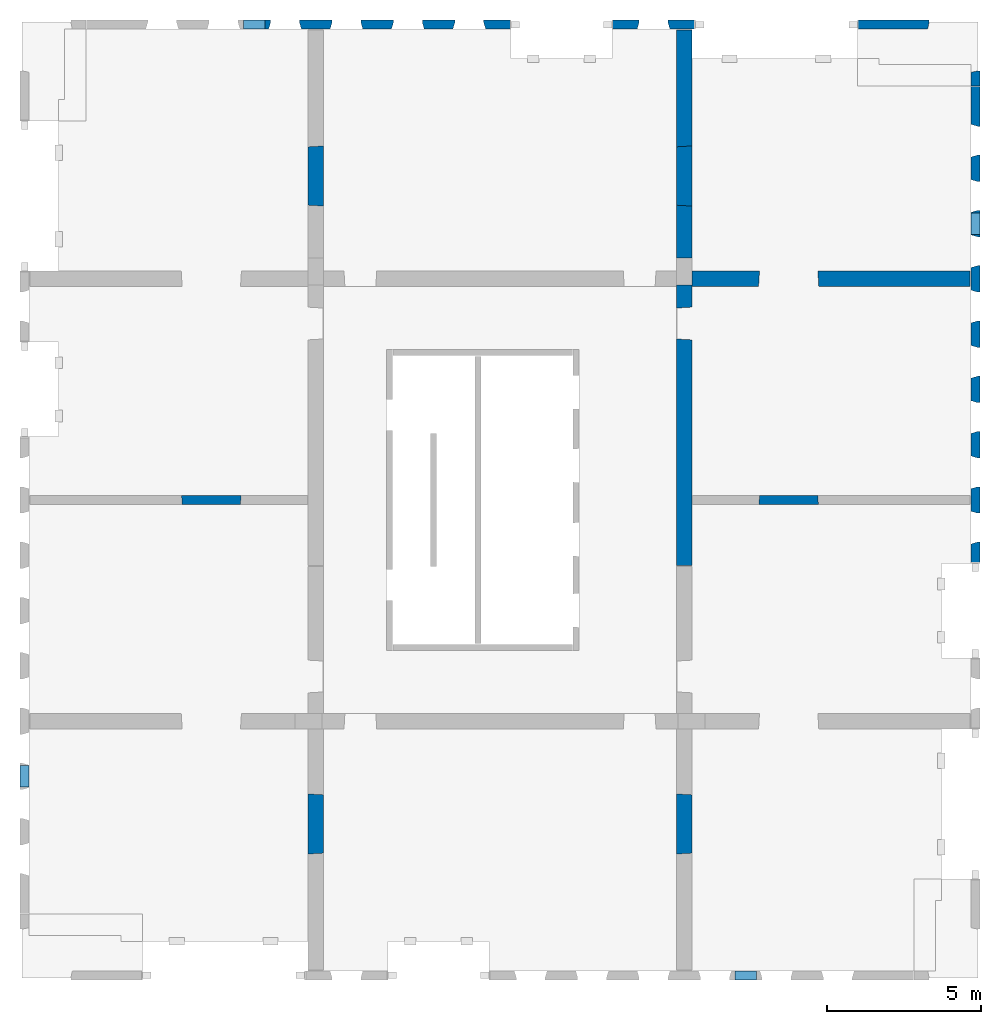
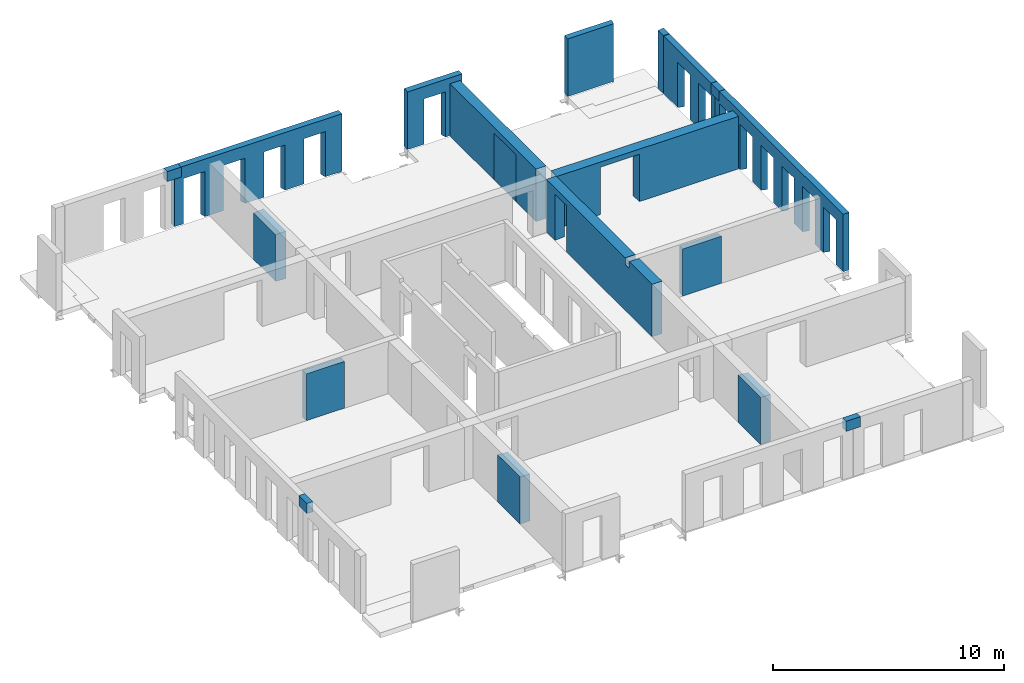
# One storey, part 4 of 4: 19 walls, 22 openings.
"""IFC2X3 building model written with IfcOpenShell, lengths in millimetres."""

from ifc_helpers import new_model, entity, si_unit, converted_unit, derived_unit, direction, frame, frame_2d, origin, place, context, subcontext, project, spatial, rectangle, extrude, faceted_brep, material, layer, layer_set, layer_usage, type_object, element, save


model = new_model("IFC2X3")

# Units and contexts
model_context = context("Model", 3, precision=0.01, world=origin(), true_north=direction((6.12303176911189e-17, 1.0)))
body_context = subcontext(model_context, "Body", "Model", "MODEL_VIEW")
ifc_project = project(units=[si_unit("LENGTHUNIT", "METRE", prefix="MILLI"), si_unit("AREAUNIT", "SQUARE_METRE"), si_unit("VOLUMEUNIT", "CUBIC_METRE"), converted_unit("PLANEANGLEUNIT", "DEGREE", entity("IfcRatioMeasure", 0.0174532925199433), si_unit("PLANEANGLEUNIT", "RADIAN"), dimensions=[0, 0, 0, 0, 0, 0, 0]), si_unit("MASSUNIT", "GRAM", prefix="KILO"), derived_unit("MASSDENSITYUNIT", [(si_unit("MASSUNIT", "GRAM", prefix="KILO"), 1), (si_unit("LENGTHUNIT", "METRE"), -3)]), si_unit("TIMEUNIT", "SECOND"), si_unit("FREQUENCYUNIT", "HERTZ"), si_unit("THERMODYNAMICTEMPERATUREUNIT", "DEGREE_CELSIUS"), derived_unit("THERMALTRANSMITTANCEUNIT", [(si_unit("MASSUNIT", "GRAM", prefix="KILO"), 1), (si_unit("THERMODYNAMICTEMPERATUREUNIT", "KELVIN"), -1), (si_unit("TIMEUNIT", "SECOND"), -3)]), derived_unit("VOLUMETRICFLOWRATEUNIT", [(si_unit("LENGTHUNIT", "METRE"), 3), (si_unit("TIMEUNIT", "SECOND"), -1)]), si_unit("ELECTRICCURRENTUNIT", "AMPERE"), si_unit("ELECTRICVOLTAGEUNIT", "VOLT"), si_unit("POWERUNIT", "WATT"), si_unit("FORCEUNIT", "NEWTON", prefix="KILO"), si_unit("ILLUMINANCEUNIT", "LUX"), si_unit("LUMINOUSFLUXUNIT", "LUMEN"), si_unit("LUMINOUSINTENSITYUNIT", "CANDELA"), derived_unit("USERDEFINED", [(si_unit("MASSUNIT", "GRAM", prefix="KILO"), -1), (si_unit("LENGTHUNIT", "METRE"), -2), (si_unit("TIMEUNIT", "SECOND"), 3), (si_unit("LUMINOUSFLUXUNIT", "LUMEN"), 1)]), derived_unit("LINEARVELOCITYUNIT", [(si_unit("LENGTHUNIT", "METRE"), 1), (si_unit("TIMEUNIT", "SECOND"), -1)]), si_unit("PRESSUREUNIT", "PASCAL"), derived_unit("USERDEFINED", [(si_unit("LENGTHUNIT", "METRE"), -2), (si_unit("MASSUNIT", "GRAM", prefix="KILO"), 1), (si_unit("TIMEUNIT", "SECOND"), -2)])], contexts=[model_context])

# Site, building, storey
site_placement = place(None, origin())
site = spatial("IfcSite", under=ifc_project, at=site_placement, Name="Default", CompositionType="ELEMENT")
building_placement = place(site_placement, origin())
building = spatial("IfcBuilding", under=site, at=building_placement, Name="niet gebruiken", CompositionType="ELEMENT")
storey_placement = place(building_placement, frame((0.0, 0.0, 36360.0)))
storey = spatial("IfcBuildingStorey", under=building, at=storey_placement, Name="11 elfde verdieping", CompositionType="ELEMENT", Elevation=36360.0)

# Walls
ifc_material_1 = material(Name="NLRS_f2_beton ihwg")
ifc_layer_1 = layer(ifc_material_1, 300.0)
ifc_layer_set_1 = layer_set([ifc_layer_1], Name="Basic Wall:NLRS_21.21_WA_beton ihwg d=300_gen")
ifc_layer_usage_1 = layer_usage(ifc_layer_set_1, "AXIS2", "NEGATIVE", 150.0)
wall_type_1 = type_object("IfcWallType", Name="Basic Wall:NLRS_21.21_WA_beton ihwg d=300_gen", PredefinedType="STANDARD", material=ifc_layer_set_1)
wall_1_placement = place(storey_placement, frame((133395.0, 32980.0, 2455.0)))
element("IfcWallStandardCase", 1, at=wall_1_placement, inside=storey, type_object=wall_type_1, material=ifc_layer_usage_1, Name="Basic Wall:NLRS_21.21_WA_beton ihwg d=300_gen", ObjectType="Basic Wall:NLRS_21.21_WA_beton ihwg d=300_gen", context=body_context, shape_type="SweptSolid", body=[
    extrude(rectangle(XDim=710.000000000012, YDim=300.000000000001, at=frame_2d((355.000000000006, 0.0), x_axis=(-1.0, 0.0))), origin(), (0.0, 0.0, 1.0), 535.0),
])
ifc_layer_usage_2 = layer_usage(ifc_layer_set_1, "AXIS2", "NEGATIVE", 150.0)
wall_2_placement = place(storey_placement, frame((150105.0, 2020.0, 2455.0), z_axis=(0.0, 0.0, 1.0), x_axis=(-1.0, 0.0, 0.0)))
element("IfcWallStandardCase", 2, at=wall_2_placement, inside=storey, type_object=wall_type_1, material=ifc_layer_usage_2, Name="Basic Wall:NLRS_21.21_WA_beton ihwg d=300_gen", ObjectType="Basic Wall:NLRS_21.21_WA_beton ihwg d=300_gen", context=body_context, shape_type="SweptSolid", body=[
    extrude(rectangle(XDim=710.000000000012, YDim=300.0, at=frame_2d((355.000000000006, -1.4210854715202e-14), x_axis=(-1.0, 0.0))), origin(), (0.0, 0.0, 1.0), 535.0),
])
ifc_layer_usage_3 = layer_usage(ifc_layer_set_1, "AXIS2", "NEGATIVE", 150.0)
wall_3_placement = place(storey_placement, frame((157230.0, 26845.0, 2455.0), z_axis=(0.0, 0.0, 1.0), x_axis=(0.0, -1.0, 0.0)))
element("IfcWallStandardCase", 3, at=wall_3_placement, inside=storey, type_object=wall_type_1, material=ifc_layer_usage_3, Name="Basic Wall:NLRS_21.21_WA_beton ihwg d=300_gen", ObjectType="Basic Wall:NLRS_21.21_WA_beton ihwg d=300_gen", context=body_context, shape_type="SweptSolid", body=[
    extrude(rectangle(XDim=700.000000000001, YDim=300.000000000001, at=frame_2d((350.000000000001, 9.80548975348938e-13), x_axis=(-1.0, 0.0))), origin(), (0.0, 0.0, 1.0), 535.0),
])
ifc_layer_usage_4 = layer_usage(ifc_layer_set_1, "AXIS2", "NEGATIVE", 150.0)
wall_4_placement = place(storey_placement, frame((126270.0, 8155.0, 2455.0), z_axis=(0.0, 0.0, 1.0), x_axis=(0.0, 1.0, 0.0)))
element("IfcWallStandardCase", 4, at=wall_4_placement, inside=storey, type_object=wall_type_1, material=ifc_layer_usage_4, Name="Basic Wall:NLRS_21.21_WA_beton ihwg d=300_gen", ObjectType="Basic Wall:NLRS_21.21_WA_beton ihwg d=300_gen", context=body_context, shape_type="SweptSolid", body=[
    extrude(rectangle(XDim=700.0, YDim=300.000000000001, at=frame_2d((350.0, 0.0), x_axis=(-1.0, 0.0))), origin(), (0.0, 0.0, 1.0), 535.0),
])

# Wall, opening
ifc_material_2 = material(Name="NLRS_f2_beton prefab")
ifc_layer_2 = layer(ifc_material_2, 500.0)
ifc_layer_set_2 = layer_set([ifc_layer_2], Name="Basic Wall:NLRS_22.21_WA_beton prefab d=500_gen")
ifc_layer_usage_5 = layer_usage(ifc_layer_set_2, "AXIS2", "NEGATIVE", 250.0)
wall_type_2 = type_object("IfcWallType", Name="Basic Wall:NLRS_22.21_WA_beton prefab d=500_gen", PredefinedType="STANDARD", material=ifc_layer_set_2)
wall_5_placement = place(storey_placement, frame((157060.0, 24700.0, -70.0), z_axis=(0.0, 0.0, 1.0), x_axis=(-1.0, 0.0, 0.0)))
wall_5 = element("IfcWallStandardCase", 5, at=wall_5_placement, inside=storey, type_object=wall_type_2, material=ifc_layer_usage_5, Name="Basic Wall:NLRS_22.21_WA_beton prefab d=500_gen", ObjectType="Basic Wall:NLRS_22.21_WA_beton prefab d=500_gen", context=body_context, shape_type="SweptSolid", body=[
    extrude(rectangle(XDim=9060.00000000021, YDim=499.999999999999, at=frame_2d((4530.00000000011, -1.37845290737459e-12), x_axis=(-1.0, 0.0))), origin(), (0.0, 0.0, 1.0), 2769.99999999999),
])
opening_1_placement = place(wall_5_placement, frame((6890.0, 250.0, 0.0)))
element("IfcOpeningElement", 6, at=opening_1_placement, cuts=wall_5, Name="Basic Wall:NLRS_22.21_WA_beton prefab d=500_gen", ObjectType="Opening", context=body_context, shape_type="Brep", body=[
    faceted_brep([(-30.0, -500.0, 2470.0), (-1930.0, -500.0, 2470.0), (-1930.0, -500.0, 0.0), (-30.0, -500.0, 0.0), (0.0, 0.0, 2500.0), (0.0, 0.0, 0.0), (-1960.0, 0.0, 0.0), (-1960.0, 0.0, 2500.0)], [[[0, 1, 2, 3]], [[4, 5, 6, 7]], [[4, 7, 1, 0]], [[7, 6, 2, 1]], [[6, 5, 3, 2]], [[5, 4, 0, 3]]]),
])

ifc_layer_usage_6 = layer_usage(ifc_layer_set_2, "AXIS2", "NEGATIVE", 250.0)
wall_6_placement = place(storey_placement, frame((147750.0, 25380.0, -70.0), z_axis=(0.0, 0.0, 1.0), x_axis=(0.0, 1.0, 0.0)))
wall_6 = element("IfcWallStandardCase", 7, at=wall_6_placement, inside=storey, type_object=wall_type_2, material=ifc_layer_usage_6, Name="Basic Wall:NLRS_22.21_WA_beton prefab d=500_gen", ObjectType="Basic Wall:NLRS_22.21_WA_beton prefab d=500_gen", context=body_context, shape_type="SweptSolid", body=[
    extrude(rectangle(XDim=7429.99999999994, YDim=499.99999999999, at=frame_2d((3714.99999999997, 1.70530256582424e-12), x_axis=(-1.0, 0.0))), origin(), (0.0, 0.0, 1.0), 2769.99999999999),
])
opening_2_placement = place(wall_6_placement, frame((1690.0, 250.0, 0.0)))
element("IfcOpeningElement", 8, at=opening_2_placement, cuts=wall_6, Name="Basic Wall:NLRS_22.21_WA_beton prefab d=500_gen", ObjectType="Opening", context=body_context, shape_type="Brep", body=[
    faceted_brep([(1930.0, 0.0, 2470.0), (1930.0, 0.0, 0.0), (30.0, 0.0, 0.0), (30.0, 0.0, 2470.0), (1960.0, -500.0, 2500.0), (0.0, -500.0, 2500.0), (0.0, -500.0, 0.0), (1960.0, -500.0, 0.0)], [[[0, 1, 2, 3]], [[4, 5, 6, 7]], [[4, 0, 3, 5]], [[5, 3, 2, 6]], [[6, 2, 1, 7]], [[7, 1, 0, 4]]]),
])

# Wall, openings
ifc_layer_usage_7 = layer_usage(ifc_layer_set_2, "AXIS2", "NEGATIVE", 250.0)
wall_7_placement = place(storey_placement, frame((147750.0, 24500.0, -70.0), z_axis=(0.0, 0.0, 1.0), x_axis=(0.0, -1.0, 0.0)))
wall_7 = element("IfcWallStandardCase", 9, at=wall_7_placement, inside=storey, type_object=wall_type_2, material=ifc_layer_usage_7, Name="Basic Wall:NLRS_22.21_WA_beton prefab d=500_gen", ObjectType="Basic Wall:NLRS_22.21_WA_beton prefab d=500_gen", context=body_context, shape_type="SweptSolid", body=[
    extrude(rectangle(XDim=9140.00000000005, YDim=499.99999999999, at=frame_2d((4570.00000000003, -1.4210854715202e-14), x_axis=(-1.0, 0.0))), origin(), (0.0, 0.0, 1.0), 2770.00000000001),
])
opening_3_placement = place(wall_7_placement, frame((1786.0, -250.0, 0.0)))
element("IfcOpeningElement", 10, at=opening_3_placement, cuts=wall_7, Name="Basic Wall:NLRS_22.21_WA_beton prefab d=500_gen", ObjectType="Opening", context=body_context, shape_type="Brep", body=[
    faceted_brep([(-1066.0, 500.0, 2478.0), (-1066.0, 500.0, 0.0), (-1036.0, 0.0, 0.0), (-1036.0, 0.0, 2448.0), (0.0, 500.0, 0.0), (-30.0, 0.0, 0.0), (-30.0, 0.0, 2448.0), (0.0, 500.0, 2478.0)], [[[0, 1, 2, 3]], [[1, 4, 5, 2]], [[6, 3, 2, 5]], [[7, 4, 1, 0]], [[7, 0, 3, 6]], [[4, 7, 6, 5]]]),
])
opening_4_placement = place(wall_7_placement, origin())
element("IfcOpeningElement", 11, at=opening_4_placement, cuts=wall_7, Name="Basic Wall:NLRS_22.21_WA_beton prefab d=500_gen", ObjectType="Opening", context=body_context, shape_type="SweptSolid", body=[
    extrude(rectangle(XDim=350.000000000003, YDim=339.999999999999, at=frame_2d((-1.08002495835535e-12, -2.1600499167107e-12), x_axis=(0.0, 1.0))), frame((7000.0, 250.0, 2595.0), z_axis=(0.0, -1.0, 0.0), x_axis=(-1.0, 0.0, 0.0)), (0.0, 0.0, 1.0), 500.0),
])

# Wall, opening
ifc_layer_3 = layer(ifc_material_2, 300.0)
ifc_layer_set_3 = layer_set([ifc_layer_3], Name="Basic Wall:NLRS_21.21_WA_beton prefab d=300/320_gen")
ifc_layer_usage_8 = layer_usage(ifc_layer_set_3, "AXIS2", "NEGATIVE", 150.0)
wall_type_3 = type_object("IfcWallType", Name="Basic Wall:NLRS_21.21_WA_beton prefab d=300/320_gen", PredefinedType="STANDARD", material=ifc_layer_set_3)
wall_8_placement = place(storey_placement, frame((145390.0, 32980.0, -50.0)))
wall_8 = element("IfcWallStandardCase", 12, at=wall_8_placement, inside=storey, type_object=wall_type_3, material=ifc_layer_usage_8, Name="Basic Wall:NLRS_21.21_WA_beton prefab d=300/320_gen", ObjectType="Basic Wall:NLRS_21.21_WA_beton prefab d=300/320_gen", context=body_context, shape_type="SweptSolid", body=[
    extrude(rectangle(XDim=2720.00000000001, YDim=300.000000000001, at=frame_2d((1360.0, -4.54747350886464e-13), x_axis=(-1.0, 0.0))), origin(), (0.0, 0.0, 1.0), 3040.0),
])
opening_5_placement = place(wall_8_placement, frame((825.0, -150.0, -20.0)))
element("IfcOpeningElement", 13, at=opening_5_placement, cuts=wall_8, Name="Basic Wall:NLRS_21.21_WA_beton prefab d=300/320_gen", ObjectType="Opening", context=body_context, shape_type="Brep", body=[
    faceted_brep([(0.0, 0.0, 2405.0), (0.0, 0.0, 0.0), (1070.0, 0.0, 0.0), (1070.0, 0.0, 2405.0), (1005.0, 219.0, 2370.0), (65.0, 219.0, 2370.0), (1005.0, 219.0, 0.0), (65.0, 219.0, 0.0), (65.0, 300.0, 0.0), (1005.0, 300.0, 0.0), (65.0, 300.0, 2370.0), (1005.0, 300.0, 2370.0)], [[[0, 1, 2, 3]], [[3, 4, 5, 0]], [[2, 6, 4, 3]], [[1, 7, 8, 9, 6, 2]], [[0, 5, 7, 1]], [[10, 11, 9, 8]], [[10, 5, 4, 11]], [[11, 4, 6, 9]], [[8, 7, 5, 10]]]),
])

ifc_layer_usage_9 = layer_usage(ifc_layer_set_3, "AXIS2", "NEGATIVE", 150.0)
wall_9_placement = place(storey_placement, frame((153390.0, 32980.0, -50.0)))
wall_9 = element("IfcWallStandardCase", 14, at=wall_9_placement, inside=storey, type_object=wall_type_3, material=ifc_layer_usage_9, Name="Basic Wall:NLRS_21.21_WA_beton prefab d=300/320_gen", ObjectType="Basic Wall:NLRS_21.21_WA_beton prefab d=300/320_gen", context=body_context, shape_type="SweptSolid", body=[
    extrude(rectangle(XDim=2330.00000000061, YDim=300.000000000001, at=frame_2d((1165.00000000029, -1.29318777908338e-12), x_axis=(-1.0, 0.0))), origin(), (0.0, 0.0, 1.0), 3040.0),
])
opening_6_placement = place(wall_9_placement, frame((2265.0, -250.0, 0.0)))
element("IfcOpeningElement", 15, at=opening_6_placement, cuts=wall_9, Name="Basic Wall:NLRS_21.21_WA_beton prefab d=300/320_gen", ObjectType="Opening", context=body_context, shape_type="Brep", body=[
    faceted_brep([(65.0, 0.0, 3040.0), (65.0, 319.0, 3040.0), (0.0, 0.0, 3040.0), (65.0, 0.0, 0.0), (0.0, 0.0, 0.0), (65.0, 319.0, 0.0)], [[[0, 1, 2]], [[3, 4, 5]], [[2, 4, 3, 0]], [[0, 3, 5, 1]], [[1, 5, 4, 2]]]),
])

ifc_layer_usage_10 = layer_usage(ifc_layer_set_3, "AXIS2", "NEGATIVE", 150.0)
wall_10_placement = place(storey_placement, frame((157230.0, 31470.0, -50.0), z_axis=(0.0, 0.0, 1.0), x_axis=(0.0, -1.0, 0.0)))
wall_10 = element("IfcWallStandardCase", 16, at=wall_10_placement, inside=storey, type_object=wall_type_3, material=ifc_layer_usage_10, Name="Basic Wall:NLRS_21.21_WA_beton prefab d=300/320_gen", ObjectType="Basic Wall:NLRS_21.21_WA_beton prefab d=300/320_gen", context=body_context, shape_type="SweptSolid", body=[
    extrude(rectangle(XDim=489.999999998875, YDim=300.000000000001, at=frame_2d((244.999999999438, -7.8159700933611e-13), x_axis=(-1.0, 0.0))), origin(), (0.0, 0.0, 1.0), 3040.0),
])
opening_7_placement = place(wall_10_placement, frame((65.0, -250.0, 0.0)))
element("IfcOpeningElement", 17, at=opening_7_placement, cuts=wall_10, Name="Basic Wall:NLRS_21.21_WA_beton prefab d=300/320_gen", ObjectType="Opening", context=body_context, shape_type="Brep", body=[
    faceted_brep([(-65.0, 0.0, 3040.0), (0.0, 0.0, 3040.0), (-65.0, 319.0, 3040.0), (-65.0, 0.0, 0.0), (-65.0, 319.0, 0.0), (0.0, 0.0, 0.0)], [[[0, 1, 2]], [[3, 4, 5]], [[1, 0, 3, 5]], [[0, 2, 4, 3]], [[2, 1, 5, 4]]]),
])

# Wall, openings
ifc_layer_usage_11 = layer_usage(ifc_layer_set_3, "AXIS2", "NEGATIVE", 150.0)
wall_11_placement = place(storey_placement, frame((133760.0, 32980.0, -50.0)))
wall_11 = element("IfcWallStandardCase", 18, at=wall_11_placement, inside=storey, type_object=wall_type_3, material=ifc_layer_usage_11, Name="Basic Wall:NLRS_21.21_WA_beton prefab d=300/320_gen", ObjectType="Basic Wall:NLRS_21.21_WA_beton prefab d=300/320_gen", context=body_context, shape_type="SweptSolid", body=[
    extrude(rectangle(XDim=8350.00000000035, YDim=300.000000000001, at=frame_2d((4175.00000000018, -1.91846538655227e-12), x_axis=(-1.0, 0.0))), origin(), (0.0, 0.0, 1.0), 3040.0),
])
opening_8_placement = place(wall_11_placement, frame((2455.0, -150.0, -20.0)))
element("IfcOpeningElement", 19, at=opening_8_placement, cuts=wall_11, Name="Basic Wall:NLRS_21.21_WA_beton prefab d=300/320_gen", ObjectType="Opening", context=body_context, shape_type="Brep", body=[
    faceted_brep([(1070.0, 0.0, 2405.0), (0.0, 0.0, 2405.0), (0.0, 0.0, 0.0), (1070.0, 0.0, 0.0), (1005.0, 219.0, 2370.0), (65.0, 219.0, 2370.0), (65.0, 219.0, 0.0), (65.0, 300.0, 0.0), (1005.0, 300.0, 0.0), (1005.0, 219.0, 0.0), (1005.0, 300.0, 2370.0), (65.0, 300.0, 2370.0)], [[[0, 1, 2, 3]], [[1, 0, 4, 5]], [[2, 1, 5, 6]], [[3, 2, 6, 7, 8, 9]], [[0, 3, 9, 4]], [[10, 8, 7, 11]], [[10, 11, 5, 4]], [[11, 7, 6, 5]], [[8, 10, 4, 9]]]),
])
opening_9_placement = place(wall_11_placement, frame((455.0, -150.0, -20.0)))
element("IfcOpeningElement", 20, at=opening_9_placement, cuts=wall_11, Name="Basic Wall:NLRS_21.21_WA_beton prefab d=300/320_gen", ObjectType="Opening", context=body_context, shape_type="Brep", body=[
    faceted_brep([(1070.0, 0.0, 2405.0), (0.0, 0.0, 2405.0), (0.0, 0.0, 0.0), (1070.0, 0.0, 0.0), (1005.0, 219.0, 2370.0), (65.0, 219.0, 2370.0), (65.0, 219.0, 0.0), (65.0, 300.0, 0.0), (1005.0, 300.0, 0.0), (1005.0, 219.0, 0.0), (1005.0, 300.0, 2370.0), (65.0, 300.0, 2370.0)], [[[0, 1, 2, 3]], [[1, 0, 4, 5]], [[2, 1, 5, 6]], [[3, 2, 6, 7, 8, 9]], [[0, 3, 9, 4]], [[10, 8, 7, 11]], [[10, 11, 5, 4]], [[11, 7, 6, 5]], [[8, 10, 4, 9]]]),
])
opening_10_placement = place(wall_11_placement, frame((4455.0, -150.0, -20.0)))
element("IfcOpeningElement", 21, at=opening_10_placement, cuts=wall_11, Name="Basic Wall:NLRS_21.21_WA_beton prefab d=300/320_gen", ObjectType="Opening", context=body_context, shape_type="Brep", body=[
    faceted_brep([(1070.0, 0.0, 2405.0), (0.0, 0.0, 2405.0), (0.0, 0.0, 0.0), (1070.0, 0.0, 0.0), (1005.0, 219.0, 2370.0), (65.0, 219.0, 2370.0), (65.0, 219.0, 0.0), (65.0, 300.0, 0.0), (1005.0, 300.0, 0.0), (1005.0, 219.0, 0.0), (1005.0, 300.0, 2370.0), (65.0, 300.0, 2370.0)], [[[0, 1, 2, 3]], [[1, 0, 4, 5]], [[2, 1, 5, 6]], [[3, 2, 6, 7, 8, 9]], [[0, 3, 9, 4]], [[10, 8, 7, 11]], [[10, 11, 5, 4]], [[11, 7, 6, 5]], [[8, 10, 4, 9]]]),
])
opening_11_placement = place(wall_11_placement, frame((6455.0, -150.0, -20.0)))
element("IfcOpeningElement", 22, at=opening_11_placement, cuts=wall_11, Name="Basic Wall:NLRS_21.21_WA_beton prefab d=300/320_gen", ObjectType="Opening", context=body_context, shape_type="Brep", body=[
    faceted_brep([(1070.0, 0.0, 2405.0), (0.0, 0.0, 2405.0), (0.0, 0.0, 0.0), (1070.0, 0.0, 0.0), (1005.0, 219.0, 2370.0), (65.0, 219.0, 2370.0), (65.0, 219.0, 0.0), (65.0, 300.0, 0.0), (1005.0, 300.0, 0.0), (1005.0, 219.0, 0.0), (1005.0, 300.0, 2370.0), (65.0, 300.0, 2370.0)], [[[0, 1, 2, 3]], [[1, 0, 4, 5]], [[2, 1, 5, 6]], [[3, 2, 6, 7, 8, 9]], [[0, 3, 9, 4]], [[10, 8, 7, 11]], [[10, 11, 5, 4]], [[11, 7, 6, 5]], [[8, 10, 4, 9]]]),
])
opening_12_placement = place(wall_11_placement, origin())
element("IfcOpeningElement", 23, at=opening_12_placement, cuts=wall_11, Name="Basic Wall:NLRS_21.21_WA_beton prefab d=300/320_gen", ObjectType="Opening", context=body_context, shape_type="SweptSolid", body=[
    extrude(rectangle(XDim=534.999999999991, YDim=344.999999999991, at=frame_2d((8.65441052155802e-12, -4.32009983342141e-12), x_axis=(0.0, 1.0))), frame((172.500000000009, 150.0, 2772.5), z_axis=(0.0, -1.0, 0.0), x_axis=(-1.0, 0.0, 0.0)), (0.0, 0.0, 1.0), 300.0),
])

ifc_layer_usage_12 = layer_usage(ifc_layer_set_3, "AXIS2", "NEGATIVE", 150.0)
wall_12_placement = place(storey_placement, frame((157230.0, 30960.0, -50.0), z_axis=(0.0, 0.0, 1.0), x_axis=(0.0, -1.0, 0.0)))
wall_12 = element("IfcWallStandardCase", 24, at=wall_12_placement, inside=storey, type_object=wall_type_3, material=ifc_layer_usage_12, Name="Basic Wall:NLRS_21.21_WA_beton prefab d=300/320_gen", ObjectType="Basic Wall:NLRS_21.21_WA_beton prefab d=300/320_gen", context=body_context, shape_type="SweptSolid", body=[
    extrude(rectangle(XDim=4460.00000000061, YDim=300.000000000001, at=frame_2d((2230.0000000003, -1.10986775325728e-11), x_axis=(-1.0, 0.0))), origin(), (0.0, 0.0, 1.0), 3039.99999999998),
])
opening_13_placement = place(wall_12_placement, frame((2295.0, -150.0, -20.0)))
element("IfcOpeningElement", 25, at=opening_13_placement, cuts=wall_12, Name="Basic Wall:NLRS_21.21_WA_beton prefab d=300/320_gen", ObjectType="Opening", context=body_context, shape_type="Brep", body=[
    faceted_brep([(-1070.0, 0.0, 2405.0), (-1070.0, 0.0, 0.0), (0.0, 0.0, 0.0), (0.0, 0.0, 2405.0), (-65.0, 219.0, 2370.0), (-1005.0, 219.0, 2370.0), (-65.0, 219.0, 0.0), (-1005.0, 219.0, 0.0), (-1005.0, 300.0, 0.0), (-65.0, 300.0, 0.0), (-1005.0, 300.0, 2370.0), (-65.0, 300.0, 2370.0)], [[[0, 1, 2, 3]], [[3, 4, 5, 0]], [[2, 6, 4, 3]], [[1, 7, 8, 9, 6, 2]], [[0, 5, 7, 1]], [[10, 11, 9, 8]], [[10, 5, 4, 11]], [[11, 4, 6, 9]], [[8, 7, 5, 10]]]),
])
opening_14_placement = place(wall_12_placement, frame((4095.0, -150.0, -20.0)))
element("IfcOpeningElement", 26, at=opening_14_placement, cuts=wall_12, Name="Basic Wall:NLRS_21.21_WA_beton prefab d=300/320_gen", ObjectType="Opening", context=body_context, shape_type="Brep", body=[
    faceted_brep([(-1070.0, 0.0, 2405.0), (-1070.0, 0.0, 0.0), (0.0, 0.0, 0.0), (0.0, 0.0, 2405.0), (-65.0, 219.0, 2370.0), (-1005.0, 219.0, 2370.0), (-65.0, 219.0, 0.0), (-1005.0, 219.0, 0.0), (-1005.0, 300.0, 0.0), (-65.0, 300.0, 0.0), (-1005.0, 300.0, 2370.0), (-65.0, 300.0, 2370.0)], [[[0, 1, 2, 3]], [[3, 4, 5, 0]], [[2, 6, 4, 3]], [[1, 7, 8, 9, 6, 2]], [[0, 5, 7, 1]], [[10, 11, 9, 8]], [[10, 5, 4, 11]], [[11, 4, 6, 9]], [[8, 7, 5, 10]]]),
])
opening_15_placement = place(wall_12_placement, origin())
element("IfcOpeningElement", 27, at=opening_15_placement, cuts=wall_12, Name="Basic Wall:NLRS_21.21_WA_beton prefab d=300/320_gen", ObjectType="Opening", context=body_context, shape_type="SweptSolid", body=[
    extrude(rectangle(XDim=534.999999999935, YDim=345.000000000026, at=frame_2d((-2.18847162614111e-12, 0.0), x_axis=(1.0, 0.0))), frame((4287.50000000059, 150.0, 2772.50000000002), z_axis=(0.0, -1.0, 0.0), x_axis=(0.0, 0.0, 1.0)), (0.0, 0.0, 1.0), 300.0),
])

ifc_layer_usage_13 = layer_usage(ifc_layer_set_3, "AXIS2", "NEGATIVE", 150.0)
wall_13_placement = place(storey_placement, frame((157230.0, 26490.0, -50.0), z_axis=(0.0, 0.0, 1.0), x_axis=(0.0, -1.0, 0.0)))
wall_13 = element("IfcWallStandardCase", 28, at=wall_13_placement, inside=storey, type_object=wall_type_3, material=ifc_layer_usage_13, Name="Basic Wall:NLRS_21.21_WA_beton prefab d=300/320_gen", ObjectType="Basic Wall:NLRS_21.21_WA_beton prefab d=300/320_gen", context=body_context, shape_type="SweptSolid", body=[
    extrude(rectangle(XDim=11050.0000000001, YDim=300.000000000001, at=frame_2d((5525.00000000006, -1.91846538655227e-12), x_axis=(-1.0, 0.0))), origin(), (0.0, 0.0, 1.0), 3040.0),
])
opening_16_placement = place(wall_13_placement, frame((10425.0, -150.0, -20.0)))
element("IfcOpeningElement", 29, at=opening_16_placement, cuts=wall_13, Name="Basic Wall:NLRS_21.21_WA_beton prefab d=300/320_gen", ObjectType="Opening", context=body_context, shape_type="Brep", body=[
    faceted_brep([(-1070.0, 0.0, 2405.0), (-1070.0, 0.0, 0.0), (0.0, 0.0, 0.0), (0.0, 0.0, 2405.0), (-65.0, 219.0, 2370.0), (-1005.0, 219.0, 2370.0), (-65.0, 219.0, 0.0), (-1005.0, 219.0, 0.0), (-1005.0, 300.0, 0.0), (-65.0, 300.0, 0.0), (-1005.0, 300.0, 2370.0), (-65.0, 300.0, 2370.0)], [[[0, 1, 2, 3]], [[3, 4, 5, 0]], [[2, 6, 4, 3]], [[1, 7, 8, 9, 6, 2]], [[0, 5, 7, 1]], [[10, 11, 9, 8]], [[10, 5, 4, 11]], [[11, 4, 6, 9]], [[8, 7, 5, 10]]]),
])
opening_17_placement = place(wall_13_placement, frame((6825.0, -150.0, -20.0)))
element("IfcOpeningElement", 30, at=opening_17_placement, cuts=wall_13, Name="Basic Wall:NLRS_21.21_WA_beton prefab d=300/320_gen", ObjectType="Opening", context=body_context, shape_type="Brep", body=[
    faceted_brep([(-1070.0, 0.0, 2405.0), (-1070.0, 0.0, 0.0), (0.0, 0.0, 0.0), (0.0, 0.0, 2405.0), (-65.0, 219.0, 2370.0), (-1005.0, 219.0, 2370.0), (-65.0, 219.0, 0.0), (-1005.0, 219.0, 0.0), (-1005.0, 300.0, 0.0), (-65.0, 300.0, 0.0), (-1005.0, 300.0, 2370.0), (-65.0, 300.0, 2370.0)], [[[0, 1, 2, 3]], [[3, 4, 5, 0]], [[2, 6, 4, 3]], [[1, 7, 8, 9, 6, 2]], [[0, 5, 7, 1]], [[10, 11, 9, 8]], [[10, 5, 4, 11]], [[11, 4, 6, 9]], [[8, 7, 5, 10]]]),
])
opening_18_placement = place(wall_13_placement, frame((5025.0, -150.0, -20.0)))
element("IfcOpeningElement", 31, at=opening_18_placement, cuts=wall_13, Name="Basic Wall:NLRS_21.21_WA_beton prefab d=300/320_gen", ObjectType="Opening", context=body_context, shape_type="Brep", body=[
    faceted_brep([(-1070.0, 0.0, 2405.0), (-1070.0, 0.0, 0.0), (0.0, 0.0, 0.0), (0.0, 0.0, 2405.0), (-65.0, 219.0, 2370.0), (-1005.0, 219.0, 2370.0), (-65.0, 219.0, 0.0), (-1005.0, 219.0, 0.0), (-1005.0, 300.0, 0.0), (-65.0, 300.0, 0.0), (-1005.0, 300.0, 2370.0), (-65.0, 300.0, 2370.0)], [[[0, 1, 2, 3]], [[3, 4, 5, 0]], [[2, 6, 4, 3]], [[1, 7, 8, 9, 6, 2]], [[0, 5, 7, 1]], [[10, 11, 9, 8]], [[10, 5, 4, 11]], [[11, 4, 6, 9]], [[8, 7, 5, 10]]]),
])
opening_19_placement = place(wall_13_placement, frame((8625.0, -150.0, -20.0)))
element("IfcOpeningElement", 32, at=opening_19_placement, cuts=wall_13, Name="Basic Wall:NLRS_21.21_WA_beton prefab d=300/320_gen", ObjectType="Opening", context=body_context, shape_type="Brep", body=[
    faceted_brep([(-1070.0, 0.0, 2405.0), (-1070.0, 0.0, 0.0), (0.0, 0.0, 0.0), (0.0, 0.0, 2405.0), (-65.0, 219.0, 2370.0), (-1005.0, 219.0, 2370.0), (-65.0, 219.0, 0.0), (-1005.0, 219.0, 0.0), (-1005.0, 300.0, 0.0), (-65.0, 300.0, 0.0), (-1005.0, 300.0, 2370.0), (-65.0, 300.0, 2370.0)], [[[0, 1, 2, 3]], [[3, 4, 5, 0]], [[2, 6, 4, 3]], [[1, 7, 8, 9, 6, 2]], [[0, 5, 7, 1]], [[10, 11, 9, 8]], [[10, 5, 4, 11]], [[11, 4, 6, 9]], [[8, 7, 5, 10]]]),
])
opening_20_placement = place(wall_13_placement, frame((3225.0, -150.0, -20.0)))
element("IfcOpeningElement", 33, at=opening_20_placement, cuts=wall_13, Name="Basic Wall:NLRS_21.21_WA_beton prefab d=300/320_gen", ObjectType="Opening", context=body_context, shape_type="Brep", body=[
    faceted_brep([(-1070.0, 0.0, 2405.0), (-1070.0, 0.0, 0.0), (0.0, 0.0, 0.0), (0.0, 0.0, 2405.0), (-65.0, 219.0, 2370.0), (-1005.0, 219.0, 2370.0), (-65.0, 219.0, 0.0), (-1005.0, 219.0, 0.0), (-1005.0, 300.0, 0.0), (-65.0, 300.0, 0.0), (-1005.0, 300.0, 2370.0), (-65.0, 300.0, 2370.0)], [[[0, 1, 2, 3]], [[3, 4, 5, 0]], [[2, 6, 4, 3]], [[1, 7, 8, 9, 6, 2]], [[0, 5, 7, 1]], [[10, 11, 9, 8]], [[10, 5, 4, 11]], [[11, 4, 6, 9]], [[8, 7, 5, 10]]]),
])
opening_21_placement = place(wall_13_placement, frame((1425.0, -150.0, -20.0)))
element("IfcOpeningElement", 34, at=opening_21_placement, cuts=wall_13, Name="Basic Wall:NLRS_21.21_WA_beton prefab d=300/320_gen", ObjectType="Opening", context=body_context, shape_type="Brep", body=[
    faceted_brep([(0.0, 0.0, 2405.0), (-1070.0, 0.0, 2405.0), (-1070.0, 0.0, 0.0), (0.0, 0.0, 0.0), (-65.0, 219.0, 2370.0), (-1005.0, 219.0, 2370.0), (-1005.0, 219.0, 0.0), (-1005.0, 300.0, 0.0), (-65.0, 300.0, 0.0), (-65.0, 219.0, 0.0), (-65.0, 300.0, 2370.0), (-1005.0, 300.0, 2370.0)], [[[0, 1, 2, 3]], [[1, 0, 4, 5]], [[2, 1, 5, 6]], [[3, 2, 6, 7, 8, 9]], [[0, 3, 9, 4]], [[10, 8, 7, 11]], [[10, 11, 5, 4]], [[11, 7, 6, 5]], [[8, 10, 4, 9]]]),
])
opening_22_placement = place(wall_13_placement, origin())
element("IfcOpeningElement", 35, at=opening_22_placement, cuts=wall_13, Name="Basic Wall:NLRS_21.21_WA_beton prefab d=300/320_gen", ObjectType="Opening", context=body_context, shape_type="SweptSolid", body=[
    extrude(rectangle(XDim=534.999999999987, YDim=344.999999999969, at=frame_2d((2.17426077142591e-12, 2.1600499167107e-12), x_axis=(0.0, 1.0))), frame((172.499999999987, 150.0, 2772.50000000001), z_axis=(0.0, -1.0, 0.0), x_axis=(-1.0, 0.0, 0.0)), (0.0, 0.0, 1.0), 300.0),
])

# Walls
ifc_material_3 = material(Name="NLRS_f2_beton prefab dichtstorten")
wall_type_4 = type_object("IfcWallType", Name="Parametric Wall:NLRS_22.21_WA_beton prefab d=500 1900x2470_gen", PredefinedType="NOTDEFINED", material=ifc_material_3)
wall_14_placement = place(storey_placement, frame((135500.0, 5970.0, -70.0), z_axis=(0.0, 0.0, 1.0), x_axis=(0.0, 1.0, 0.0)))
element("IfcWall", 36, at=wall_14_placement, inside=storey, type_object=wall_type_4, material=ifc_material_3, Name="Parametric Wall:NLRS_22.21_WA_beton prefab d=500 1900x2470_gen", ObjectType="Parametric Wall:NLRS_22.21_WA_beton prefab d=500 1900x2470_gen", context=body_context, shape_type="Brep", body=[
    faceted_brep([(1960.0, 0.0, 2500.0), (1960.0, 0.0, 0.0), (0.0, 0.0, 0.0), (0.0, 0.0, 2500.0), (1930.0, -500.0, 2470.0), (30.0, -500.0, 2470.0), (30.0, -500.0, 0.0), (1930.0, -500.0, 0.0)], [[[0, 1, 2, 3]], [[4, 5, 6, 7]], [[4, 7, 1, 0]], [[7, 6, 2, 1]], [[6, 5, 3, 2]], [[5, 4, 0, 3]]]),
])
for number, where, z_axis, x_axis in (
    (37, (147500.0, 27070.0, -70.0), (0.0, 0.0, 1.0), (0.0, 1.0, 0.0)),
    (38, (135500.0, 27070.0, -70.0), (0.0, 0.0, 1.0), (0.0, 1.0, 0.0)),
):
    element("IfcWall", number, at=place(storey_placement, frame(where, z_axis=z_axis, x_axis=x_axis)), inside=storey, type_object=wall_type_4, material=ifc_material_3, Name="Parametric Wall:NLRS_22.21_WA_beton prefab d=500 1900x2470_gen", ObjectType="Parametric Wall:NLRS_22.21_WA_beton prefab d=500 1900x2470_gen", context=body_context, shape_type="Brep", body=[
        faceted_brep([(0.0, -500.0, 2500.0), (0.0, -500.0, 0.0), (1960.0, -500.0, 0.0), (1960.0, -500.0, 2500.0), (30.0, 0.0, 2470.0), (1930.0, 0.0, 2470.0), (1930.0, 0.0, 0.0), (30.0, 0.0, 0.0)], [[[0, 1, 2, 3]], [[4, 5, 6, 7]], [[4, 7, 1, 0]], [[7, 6, 2, 1]], [[6, 5, 3, 2]], [[5, 4, 0, 3]]]),
    ])
wall_15_placement = place(storey_placement, frame((147500.0, 5970.0, -70.0), z_axis=(0.0, 0.0, 1.0), x_axis=(0.0, 1.0, 0.0)))
element("IfcWall", 39, at=wall_15_placement, inside=storey, type_object=wall_type_4, material=ifc_material_3, Name="Parametric Wall:NLRS_22.21_WA_beton prefab d=500 1900x2470_gen", ObjectType="Parametric Wall:NLRS_22.21_WA_beton prefab d=500 1900x2470_gen", context=body_context, shape_type="Brep", body=[
    faceted_brep([(1960.0, 0.0, 2500.0), (1960.0, 0.0, 0.0), (0.0, 0.0, 0.0), (0.0, 0.0, 2500.0), (1930.0, -500.0, 2470.0), (30.0, -500.0, 2470.0), (30.0, -500.0, 0.0), (1930.0, -500.0, 0.0)], [[[0, 1, 2, 3]], [[4, 5, 6, 7]], [[4, 7, 1, 0]], [[7, 6, 2, 1]], [[6, 5, 3, 2]], [[5, 4, 0, 3]]]),
])
wall_16_placement = place(storey_placement, frame((131382.0, 17350.0, -70.0)))
element("IfcWall", 40, at=wall_16_placement, inside=storey, type_object=wall_type_4, material=ifc_material_3, Name="Parametric Wall:NLRS_22.21_WA_beton prefab d=500 1900x2470_gen", ObjectType="Parametric Wall:NLRS_22.21_WA_beton prefab d=500 1900x2470_gen", context=body_context, shape_type="Brep", body=[
    faceted_brep([(1936.0, 300.0, 2488.0), (1936.0, 300.0, 0.0), (0.0, 300.0, 0.0), (0.0, 300.0, 2488.0), (1918.0, 0.0, 2470.0), (18.0, 0.0, 2470.0), (18.0, 0.0, 0.0), (1918.0, 0.0, 0.0)], [[[0, 1, 2, 3]], [[4, 5, 6, 7]], [[4, 7, 1, 0]], [[7, 6, 2, 1]], [[6, 5, 3, 2]], [[5, 4, 0, 3]]]),
])
wall_17_placement = place(storey_placement, frame((150182.0, 17350.0, -70.0)))
element("IfcWall", 41, at=wall_17_placement, inside=storey, type_object=wall_type_4, material=ifc_material_3, Name="Parametric Wall:NLRS_22.21_WA_beton prefab d=500 1900x2470_gen", ObjectType="Parametric Wall:NLRS_22.21_WA_beton prefab d=500 1900x2470_gen", context=body_context, shape_type="Brep", body=[
    faceted_brep([(0.0, 0.0, 2488.0), (0.0, 0.0, 0.0), (1936.0, 0.0, 0.0), (1936.0, 0.0, 2488.0), (18.0, 300.0, 2470.0), (1918.0, 300.0, 2470.0), (1918.0, 300.0, 0.0), (18.0, 300.0, 0.0)], [[[0, 1, 2, 3]], [[4, 5, 6, 7]], [[4, 7, 1, 0]], [[7, 6, 2, 1]], [[6, 5, 3, 2]], [[5, 4, 0, 3]]]),
])

save(model, "model.ifc")
